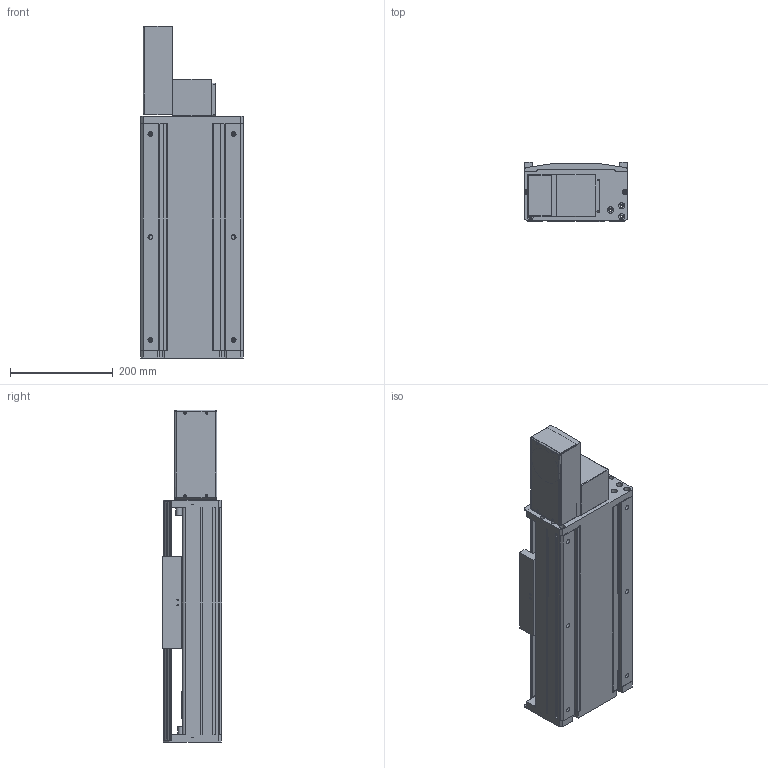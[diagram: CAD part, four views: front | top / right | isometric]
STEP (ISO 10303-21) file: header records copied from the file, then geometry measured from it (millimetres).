
FILE_DESCRIPTION(/* description */ (''),/* implementation_level */ '2;1');
FILE_NAME(/* name */ 'TKB200-FR-200_asm1.stp',/* time_stamp */ '2016-05-18T11:43:08+08:00',/* author */ (''),/* organization */ (''),/* preprocessor_version */ 'ST-DEVELOPER v15',/* originating_system */ 'SIEMENS PLM Software NX 8.5',/* authorisation */ '');
FILE_SCHEMA (('AUTOMOTIVE_DESIGN { 1 0 10303 214 3 1 1 1 }'));
Length unit declared in the file: millimetre
Products named in the file (3): 200-2; 200-1; TKB200-FR-200_asm1
Assembly tree (2 placements, depth 2):
  TKB200-FR-200_asm1
    200-1
    200-2
Bounding box: 200 x 115 x 645 mm (x, y, z)
Volume: 4193349.9 mm3; surface area: 1204980.7 mm2
Topology: 2 solids, 3 shells, 975 faces, 2717 edges, 1745 vertices
Faces by surface type: plane 463, cylinder 426, cone 70, bspline 16
Full cylindrical faces by diameter (mm): 2.5 x2, 3.3 x16, 4.3 x4, 4.5 x8, 5 x2, 6.6 x34, 6.8 x8, 8 x6, 9 x14, 10 x4, 11 x22, 12 x16, 14 x6, 75 x1
Entity records: 32222 total; most frequent: CARTESIAN_POINT 7857, DIRECTION 5043, ORIENTED_EDGE 4842, EDGE_CURVE 2421, AXIS2_PLACEMENT_3D 1820, VERTEX_POINT 1664, LINE 1403, VECTOR 1403
